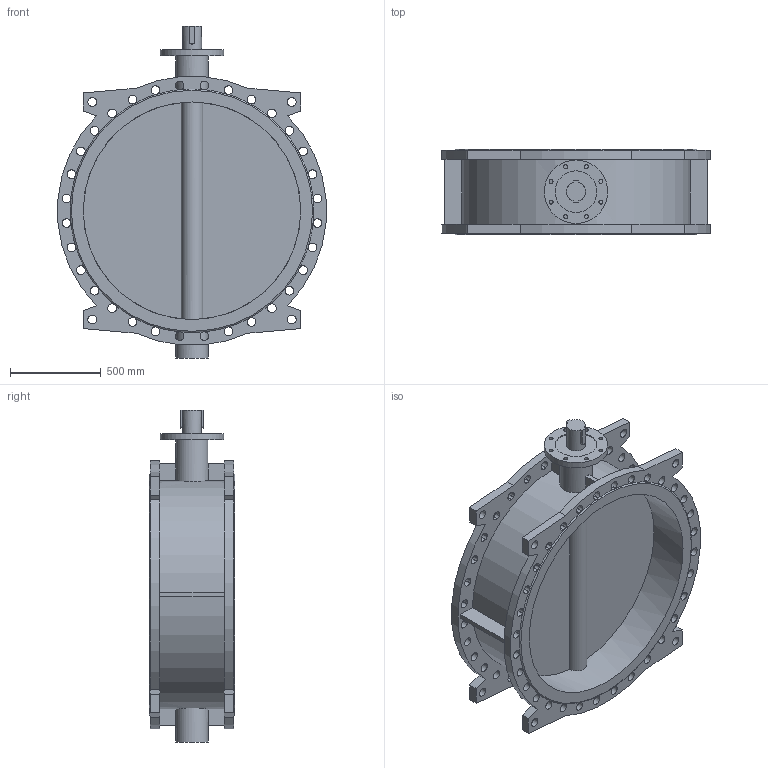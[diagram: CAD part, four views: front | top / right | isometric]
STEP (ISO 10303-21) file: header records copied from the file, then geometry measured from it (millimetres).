
FILE_DESCRIPTION(('STEP AP203'), '1');
FILE_NAME('Çàòâîð 021F.Y DN1200 PN10_16 ïîä ÝÏ', '', ('UNSPECIFIED'), ('UNSPECIFIED'), 'ASCON STEP Converter 1.6', 'ASCON Math Kernel', '');
FILE_SCHEMA(('CONFIG_CONTROL_DESIGN'));
Length unit declared in the file: millimetre
Bounding box: 1479.4 x 470 x 1831 mm (x, y, z)
Volume: 157008839.9 mm3; surface area: 9489818.5 mm2
Topology: 1 solids, 1 shells, 360 faces, 1239 edges, 826 vertices
Faces by surface type: plane 191, cylinder 167, cone 2
Full cylindrical faces by diameter (mm): 22 x8, 48 x8, 105 x1, 180 x2, 230 x1, 350 x1, 1200 x2
Entity records: 20178 total; most frequent: CARTESIAN_POINT 6048, ORIENTED_EDGE 2428, DIRECTION 2326, EDGE_CURVE 1214, AXIS2_PLACEMENT_3D 828, VERTEX_POINT 826, LINE 670, VECTOR 670
